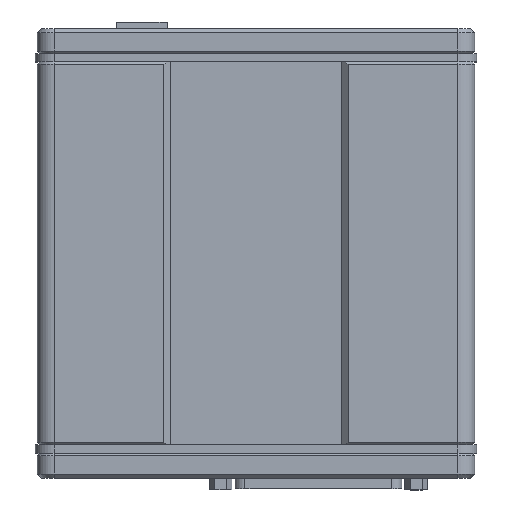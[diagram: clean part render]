
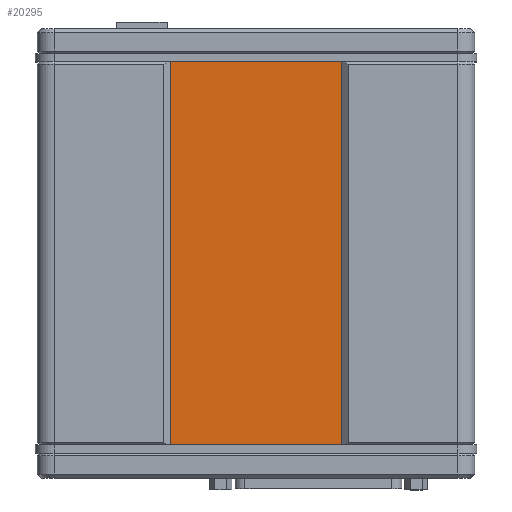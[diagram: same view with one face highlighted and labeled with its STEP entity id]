
A CAD part, top view. The second image highlights one B-rep face of the part: STEP entity #20295.
In plain terms, the highlighted planar face has unit normal (0, 0, 1) as drawn and (0, 0, -1) by its records, which use the part's own axes.
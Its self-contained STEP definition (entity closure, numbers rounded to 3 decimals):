
#2586=ORIENTED_EDGE('',*,*,#6396,.F.);
#2587=ORIENTED_EDGE('',*,*,#6397,.F.);
#2588=ORIENTED_EDGE('',*,*,#6398,.T.);
#2589=ORIENTED_EDGE('',*,*,#6399,.F.);
#6396=EDGE_CURVE('',#8435,#8436,#10138,.T.);
#6397=EDGE_CURVE('',#8437,#8435,#10139,.T.);
#6398=EDGE_CURVE('',#8437,#8438,#10140,.T.);
#6399=EDGE_CURVE('',#8436,#8438,#10141,.T.);
#8435=VERTEX_POINT('',#28667);
#8436=VERTEX_POINT('',#28668);
#8437=VERTEX_POINT('',#28670);
#8438=VERTEX_POINT('',#28672);
#10138=LINE('',#28666,#11980);
#10139=LINE('',#28669,#11981);
#10140=LINE('',#28671,#11982);
#10141=LINE('',#28673,#11983);
#11980=VECTOR('',#23937,1000.);
#11981=VECTOR('',#23938,1000.);
#11982=VECTOR('',#23939,1000.);
#11983=VECTOR('',#23940,1000.);
#13397=EDGE_LOOP('',(#2586,#2587,#2588,#2589));
#14409=FACE_BOUND('',#13397,.T.);
#15349=PLANE('',#21370);
#20295=ADVANCED_FACE('',(#14409),#15349,.F.);
#21370=AXIS2_PLACEMENT_3D('',#28665,#23935,#23936);
#23935=DIRECTION('',(0.,0.,1.));
#23936=DIRECTION('',(1.,0.,0.));
#23937=DIRECTION('',(0.,1.,0.));
#23938=DIRECTION('',(1.,0.,0.));
#23939=DIRECTION('',(0.,1.,0.));
#23940=DIRECTION('',(-1.,0.,0.));
#28665=CARTESIAN_POINT('',(0.,0.,-6.));
#28666=CARTESIAN_POINT('',(21.,-89.904,-6.));
#28667=CARTESIAN_POINT('',(21.,-46.,-6.));
#28668=CARTESIAN_POINT('',(21.,46.,-6.));
#28669=CARTESIAN_POINT('',(-48.5,-46.,-6.));
#28670=CARTESIAN_POINT('',(-21.,-46.,-6.));
#28671=CARTESIAN_POINT('',(-21.,-89.904,-6.));
#28672=CARTESIAN_POINT('',(-21.,46.,-6.));
#28673=CARTESIAN_POINT('',(48.5,46.,-6.));
